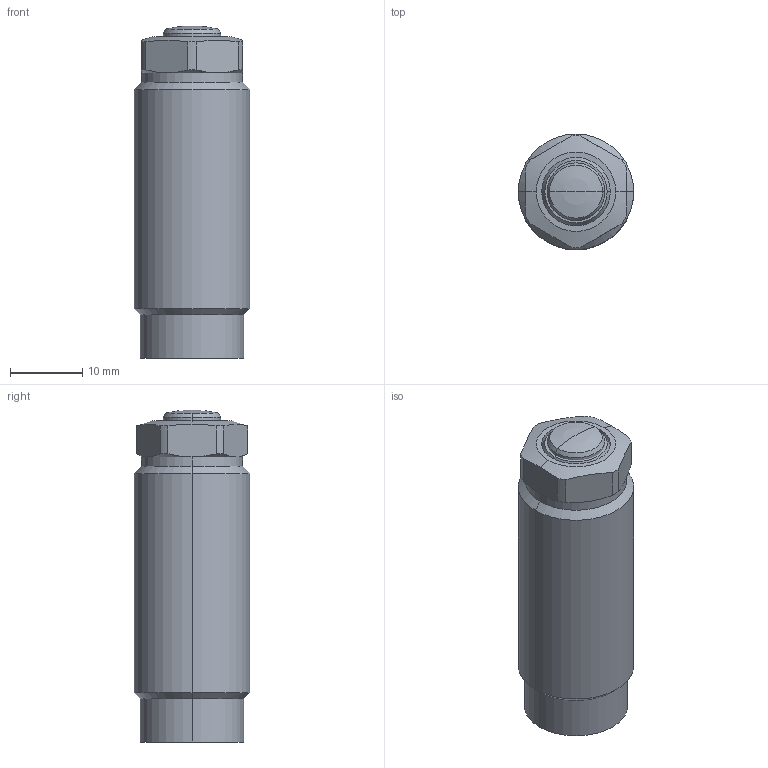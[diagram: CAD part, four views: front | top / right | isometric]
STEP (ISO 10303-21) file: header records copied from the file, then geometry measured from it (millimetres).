
FILE_DESCRIPTION((' '),'2;1');
FILE_NAME( 'TGP16-RL.x_t.stp', '2025-02-10T16:03:50', (' '), ('--- Datakit www.datakit.com---'), ' Datakit CrossCadWare V2024.1 Dec 21 2023', 'Mastercam 2025', ' ');
FILE_SCHEMA(('AUTOMOTIVE_DESIGN { 1 0 10303 214 1 1 1 1 }'));
Length unit declared in the file: millimetre
Products named in the file (1): TGP16-RL
Bounding box: 16 x 16 x 46 mm (x, y, z)
Volume: 9174.1 mm3; surface area: 3239.1 mm2
Topology: 2 solids, 2 shells, 60 faces, 135 edges, 82 vertices
Faces by surface type: cylinder 22, cone 18, plane 14, torus 4, sphere 2
Entity records: 1756 total; most frequent: CARTESIAN_POINT 380, DIRECTION 308, ORIENTED_EDGE 266, AXIS2_PLACEMENT_3D 134, EDGE_CURVE 133, VERTEX_POINT 82, CIRCLE 73, EDGE_LOOP 65
